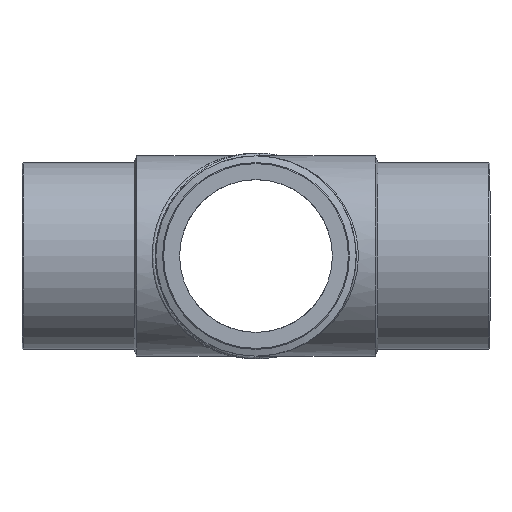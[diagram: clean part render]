
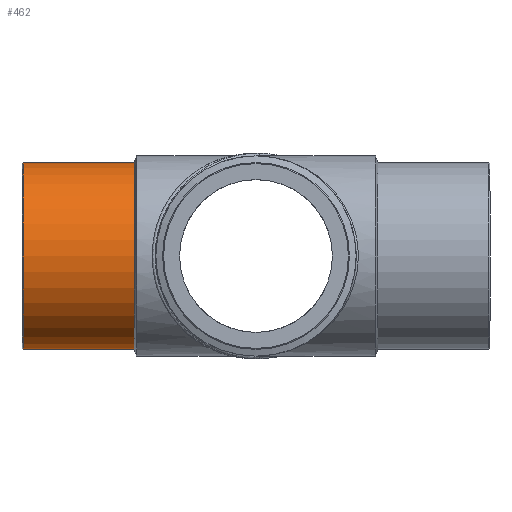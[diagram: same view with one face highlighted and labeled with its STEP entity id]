
A CAD part, front view. The second image highlights one B-rep face of the part: STEP entity #462.
In plain terms, the highlighted cylindrical face has radius 90 mm (diameter 180 mm), a full revolution.
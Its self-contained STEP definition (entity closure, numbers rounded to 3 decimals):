
#46=CIRCLE('',#526,90.);
#47=CIRCLE('',#528,90.);
#70=CYLINDRICAL_SURFACE('',#527,90.);
#120=ORIENTED_EDGE('',*,*,#234,.T.);
#121=ORIENTED_EDGE('',*,*,#233,.T.);
#233=EDGE_CURVE('',#290,#290,#46,.T.);
#234=EDGE_CURVE('',#291,#291,#47,.T.);
#290=VERTEX_POINT('',#921);
#291=VERTEX_POINT('',#924);
#344=EDGE_LOOP('',(#120));
#345=EDGE_LOOP('',(#121));
#402=FACE_BOUND('',#344,.T.);
#403=FACE_BOUND('',#345,.T.);
#462=ADVANCED_FACE('',(#402,#403),#70,.T.);
#526=AXIS2_PLACEMENT_3D('',#920,#600,#601);
#527=AXIS2_PLACEMENT_3D('',#922,#602,#603);
#528=AXIS2_PLACEMENT_3D('',#923,#604,#605);
#600=DIRECTION('',(-1.,0.,0.));
#601=DIRECTION('',(0.,0.,1.));
#602=DIRECTION('',(-1.,0.,0.));
#603=DIRECTION('',(0.,0.,1.));
#604=DIRECTION('',(1.,0.,0.));
#605=DIRECTION('',(0.,0.,-1.));
#920=CARTESIAN_POINT('',(-117.5,0.,0.));
#921=CARTESIAN_POINT('',(-117.5,0.,90.));
#922=CARTESIAN_POINT('',(-60.,0.,0.));
#923=CARTESIAN_POINT('',(-224.5,0.,0.));
#924=CARTESIAN_POINT('',(-224.5,0.,-90.));
